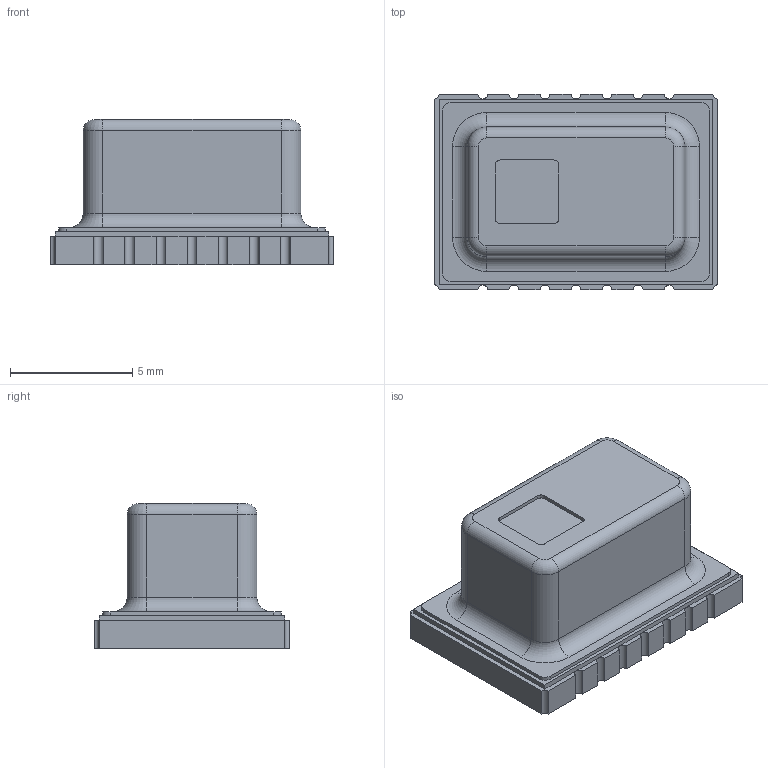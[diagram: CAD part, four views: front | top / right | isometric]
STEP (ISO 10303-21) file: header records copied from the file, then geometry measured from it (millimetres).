
FILE_DESCRIPTION (( 'STEP AP203' ), '1' );
FILE_NAME ('AMG883642_3Dmodel.STEP', '2020-09-14T08:56:40', ( '全社標準PC（ver1803）' ), ( 'パナソニック株式会社' ), 'SwSTEP 2.0', 'SolidWorks 2018', '' );
FILE_SCHEMA (( 'CONFIG_CONTROL_DESIGN' ));
Length unit declared in the file: millimetre
Products named in the file (3): seramic_pkg; AMG883642_3Dmodel; cap
Assembly tree (2 placements, depth 2):
  AMG883642_3Dmodel
    seramic_pkg
    cap
Bounding box: 11.6 x 8 x 5.93 mm (x, y, z)
Volume: 341 mm3; surface area: 513 mm2
Topology: 2 solids, 2 shells, 100 faces, 252 edges, 158 vertices
Faces by surface type: plane 54, cylinder 38, torus 8
Entity records: 3299 total; most frequent: DIRECTION 560, CARTESIAN_POINT 515, ORIENTED_EDGE 504, EDGE_CURVE 252, AXIS2_PLACEMENT_3D 203, VERTEX_POINT 158, VECTOR 154, LINE 154
